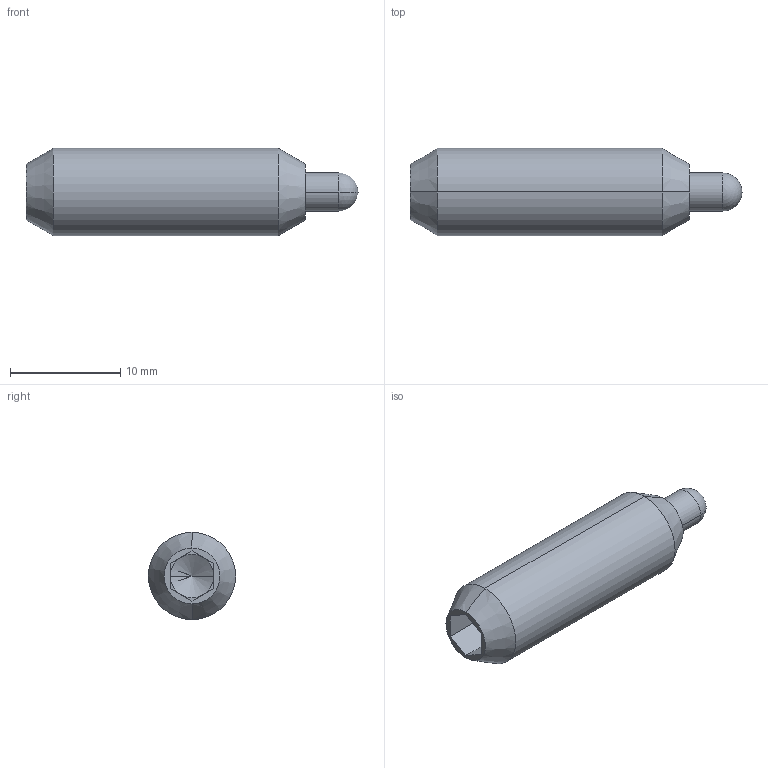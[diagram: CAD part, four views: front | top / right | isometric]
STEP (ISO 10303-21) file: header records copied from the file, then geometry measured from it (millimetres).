
FILE_DESCRIPTION (( 'STEP AP203' ), '1' );
FILE_NAME ('3B20.W376.step', '2009-10-12T14:04:24', ( 'Wixroyd' ), ( 'Wixroyd' ), 'SwSTEP 2.0', 'SolidWorks 2009', '' );
FILE_SCHEMA (( 'CONFIG_CONTROL_DESIGN' ));
Length unit declared in the file: inch
Products named in the file (3): Part1_3B20.W376; Part2_3B20.W376; 3B20.W376
Assembly tree (2 placements, depth 2):
  3B20.W376
    Part2_3B20.W376
    Part1_3B20.W376
Bounding box: 30.18 x 7.92 x 7.92 mm (x, y, z)
Volume: 907.3 mm3; surface area: 1141.4 mm2
Topology: 2 solids, 2 shells, 43 faces, 92 edges, 52 vertices
Faces by surface type: plane 17, cylinder 12, cone 12, sphere 2
Entity records: 1413 total; most frequent: DIRECTION 220, CARTESIAN_POINT 184, ORIENTED_EDGE 172, EDGE_CURVE 86, AXIS2_PLACEMENT_3D 86, VERTEX_POINT 50, VECTOR 48, LINE 48
